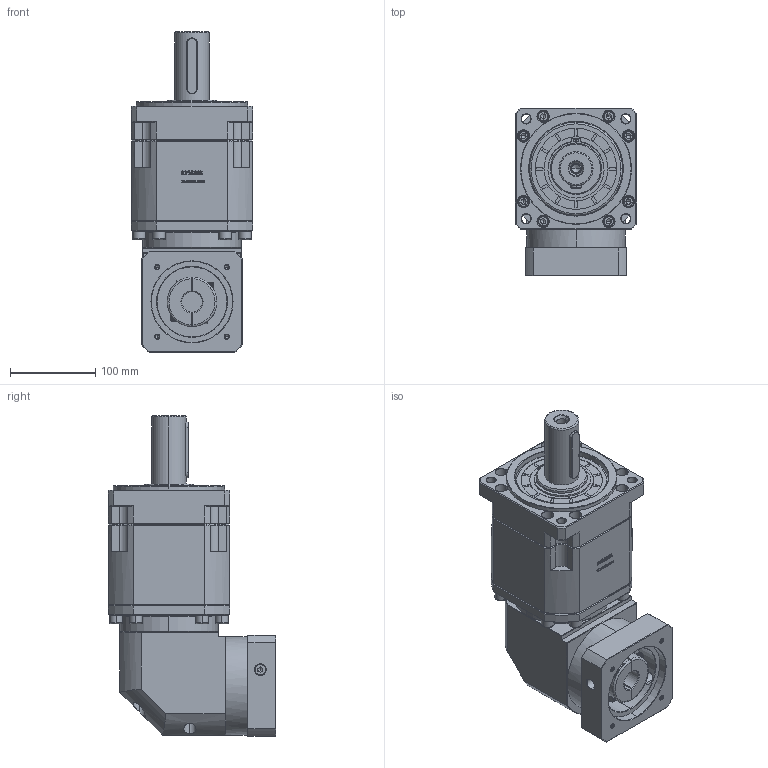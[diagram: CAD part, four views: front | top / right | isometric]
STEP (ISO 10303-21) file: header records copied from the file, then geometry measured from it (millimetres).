
FILE_DESCRIPTION (( 'STEP AP214' ), '1' );
FILE_NAME ('ZBR142A-D40-L3-24-95-115-M6.step', '2023-03-20T04:13:49', ( '' ), ( '' ), 'SwSTEP 2.0', 'SolidWorks 2016', '' );
FILE_SCHEMA (( 'AUTOMOTIVE_DESIGN' ));
Length unit declared in the file: millimetre
Products named in the file (1): ZBR142A-D40-L3-24-95-115-M6
Bounding box: 142 x 195.9 x 375.2 mm (x, y, z)
Volume: 5044329.2 mm3; surface area: 329207.5 mm2
Topology: 6 solids, 6 shells, 3178 faces, 8364 edges, 5353 vertices
Faces by surface type: plane 1651, bspline 596, cylinder 487, cone 398, torus 46
Entity records: 170940 total; most frequent: CARTESIAN_POINT 62177, ORIENTED_EDGE 16620, DIRECTION 13011, EDGE_CURVE 8310, VECTOR 5569, LINE 5569, VERTEX_POINT 5353, AXIS2_PLACEMENT_3D 3721
